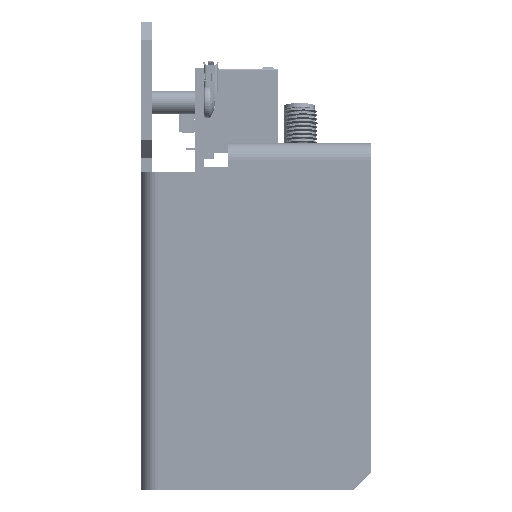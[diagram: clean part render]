
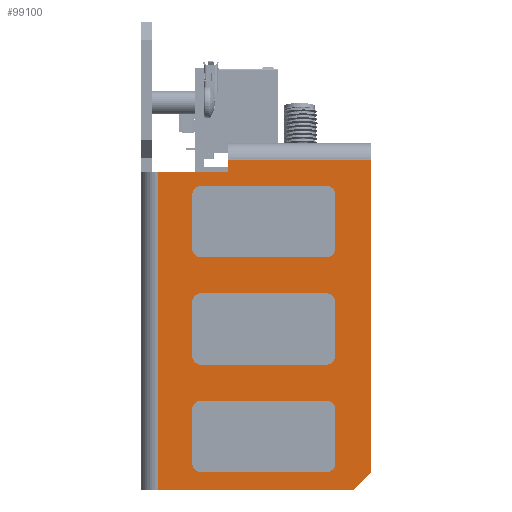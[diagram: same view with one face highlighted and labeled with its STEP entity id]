
A CAD part, front view. The second image highlights one B-rep face of the part: STEP entity #99100.
In plain terms, the highlighted planar face has unit normal (0, -1, 0).
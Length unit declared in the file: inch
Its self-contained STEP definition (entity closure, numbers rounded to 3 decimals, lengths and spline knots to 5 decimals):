
#533 = VERTEX_POINT ( 'NONE', #36661 ) ;
#554 = CARTESIAN_POINT ( 'NONE',  ( -2.032, -3.49433, 1.60829 ) ) ;
#3513 = VECTOR ( 'NONE', #146322, 39.37008 ) ;
#3637 = CARTESIAN_POINT ( 'NONE',  ( -4.127, -3.49433, 0.1208 ) ) ;
#6214 = VERTEX_POINT ( 'NONE', #554 ) ;
#8869 = CARTESIAN_POINT ( 'NONE',  ( -4.212, -3.49433, 0.60829 ) ) ;
#12986 = VECTOR ( 'NONE', #188184, 39.37008 ) ;
#17700 = ORIENTED_EDGE ( 'NONE', *, *, #200622, .T. ) ;
#20428 = CARTESIAN_POINT ( 'NONE',  ( 0., -3.49433, 0. ) ) ;
#22386 = CARTESIAN_POINT ( 'NONE',  ( -4.127, -3.49433, 0.60829 ) ) ;
#25289 = EDGE_LOOP ( 'NONE', ( #120740, #94569, #66813, #26774, #199165, #17700, #47478 ) ) ;
#26774 = ORIENTED_EDGE ( 'NONE', *, *, #177455, .T. ) ;
#29021 = VERTEX_POINT ( 'NONE', #8869 ) ;
#34550 = LINE ( 'NONE', #159934, #118745 ) ;
#36424 = VECTOR ( 'NONE', #49914, 39.37008 ) ;
#36661 = CARTESIAN_POINT ( 'NONE',  ( -1.907, -3.49433, 0.1208 ) ) ;
#37318 = DIRECTION ( 'NONE',  ( 0., 1., 0. ) ) ;
#39335 = EDGE_CURVE ( 'NONE', #113595, #6214, #81173, .T. ) ;
#43231 = CARTESIAN_POINT ( 'NONE',  ( -4.127, -3.49433, 0. ) ) ;
#47478 = ORIENTED_EDGE ( 'NONE', *, *, #183503, .F. ) ;
#49914 = DIRECTION ( 'NONE',  ( -0.707, 0., 0.707 ) ) ;
#54683 = EDGE_CURVE ( 'NONE', #6214, #63033, #197296, .T. ) ;
#56258 = LINE ( 'NONE', #203794, #185189 ) ;
#62543 = CARTESIAN_POINT ( 'NONE',  ( -4.212, -3.49433, 0.60829 ) ) ;
#63033 = VERTEX_POINT ( 'NONE', #178130 ) ;
#63278 = VECTOR ( 'NONE', #194741, 39.37008 ) ;
#66813 = ORIENTED_EDGE ( 'NONE', *, *, #54683, .T. ) ;
#68426 = VECTOR ( 'NONE', #80615, 39.37008 ) ;
#71511 = EDGE_CURVE ( 'NONE', #533, #113595, #34550, .T. ) ;
#80615 = DIRECTION ( 'NONE',  ( -1., 0., 0. ) ) ;
#81173 = LINE ( 'NONE', #200761, #36424 ) ;
#82561 = VERTEX_POINT ( 'NONE', #3637 ) ;
#82833 = AXIS2_PLACEMENT_3D ( 'NONE', #20428, #37318, #155079 ) ;
#83847 = FACE_OUTER_BOUND ( 'NONE', #25289, .T. ) ;
#94569 = ORIENTED_EDGE ( 'NONE', *, *, #39335, .T. ) ;
#99100 = ADVANCED_FACE ( 'NONE', ( #83847 ), #121125, .F. ) ;
#107908 = LINE ( 'NONE', #43231, #63278 ) ;
#109829 = DIRECTION ( 'NONE',  ( 0., 0., 1. ) ) ;
#113595 = VERTEX_POINT ( 'NONE', #116315 ) ;
#116315 = CARTESIAN_POINT ( 'NONE',  ( -1.907, -3.49433, 1.48329 ) ) ;
#118745 = VECTOR ( 'NONE', #109829, 39.37008 ) ;
#120740 = ORIENTED_EDGE ( 'NONE', *, *, #71511, .T. ) ;
#121125 = PLANE ( 'NONE',  #82833 ) ;
#127068 = LINE ( 'NONE', #62543, #3513 ) ;
#146322 = DIRECTION ( 'NONE',  ( 1., 0., 0. ) ) ;
#147185 = LINE ( 'NONE', #171281, #12986 ) ;
#149606 = VERTEX_POINT ( 'NONE', #22386 ) ;
#153727 = DIRECTION ( 'NONE',  ( -1., 0., 0. ) ) ;
#155079 = DIRECTION ( 'NONE',  ( 0., 0., 1. ) ) ;
#159934 = CARTESIAN_POINT ( 'NONE',  ( -1.907, -3.49433, 0. ) ) ;
#171281 = CARTESIAN_POINT ( 'NONE',  ( -4.212, -3.49433, 1.60829 ) ) ;
#177455 = EDGE_CURVE ( 'NONE', #63033, #29021, #147185, .T. ) ;
#178130 = CARTESIAN_POINT ( 'NONE',  ( -4.212, -3.49433, 1.60829 ) ) ;
#180292 = EDGE_CURVE ( 'NONE', #29021, #149606, #127068, .T. ) ;
#183503 = EDGE_CURVE ( 'NONE', #533, #82561, #56258, .T. ) ;
#185189 = VECTOR ( 'NONE', #153727, 39.37008 ) ;
#188184 = DIRECTION ( 'NONE',  ( 0., 0., -1. ) ) ;
#194741 = DIRECTION ( 'NONE',  ( 0., 0., -1. ) ) ;
#197296 = LINE ( 'NONE', #198349, #68426 ) ;
#198349 = CARTESIAN_POINT ( 'NONE',  ( 0., -3.49433, 1.60829 ) ) ;
#199165 = ORIENTED_EDGE ( 'NONE', *, *, #180292, .T. ) ;
#200622 = EDGE_CURVE ( 'NONE', #149606, #82561, #107908, .T. ) ;
#200761 = CARTESIAN_POINT ( 'NONE',  ( -2.032, -3.49433, 1.60829 ) ) ;
#203794 = CARTESIAN_POINT ( 'NONE',  ( -4.127, -3.49433, 0.1208 ) ) ;
